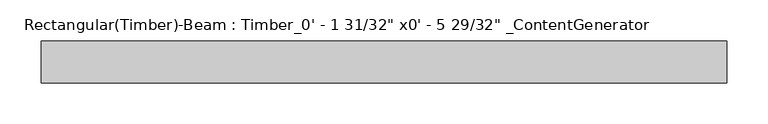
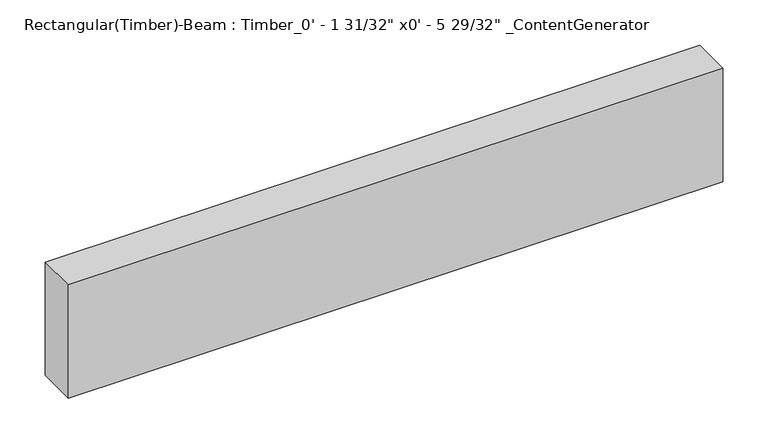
"""IFC4 building model written with IfcOpenShell, lengths in millimetres: beam geometry."""

from ifc_helpers import new_model, si_unit, frame, origin, place, context, project, spatial, polyline, outline, extrude, source, transform, mapped, element, save


def beam_0e257e4f(model_context):
    return source(origin(), model_context, "Body", "SweptSolid", [
        extrude(outline(polyline([(415.925, 25.4), (415.925, -25.4), (-415.925, -25.4), (-415.925, 25.4), (415.925, 25.4)])), frame((0.0, 0.0, -76.2), z_axis=(0.0, 0.0, 1.0), x_axis=(1.0, 0.0, 0.0)), (0.0, 0.0, 1.0), 152.4),
    ])


if __name__ == "__main__":
    model = new_model("IFC4")
    model_context = context("Model", 3, world=origin())
    ifc_project = project(units=[si_unit("LENGTHUNIT", "METRE", prefix="MILLI")], contexts=[model_context])
    site = spatial("IfcSite", under=ifc_project)
    building = spatial("IfcBuilding", under=site)
    placement = place(None, origin())
    beam_shape = beam_0e257e4f(model_context)
    element("IfcBeam", 1, ObjectType="Rectangular(Timber)-Beam : Timber_0' - 1 31/32\" x0' - 5 29/32\" _ContentGenerator", at=placement, inside=building, context=model_context, shape_type="MappedRepresentation", body=[
        mapped(beam_shape, transform((0.0, 0.0, 0.0), x_axis=(1.0, 0.0, 0.0), y_axis=(0.0, 1.0, 0.0), z_axis=(0.0, 0.0, 1.0))),
    ])
    save(model, "model.ifc")
